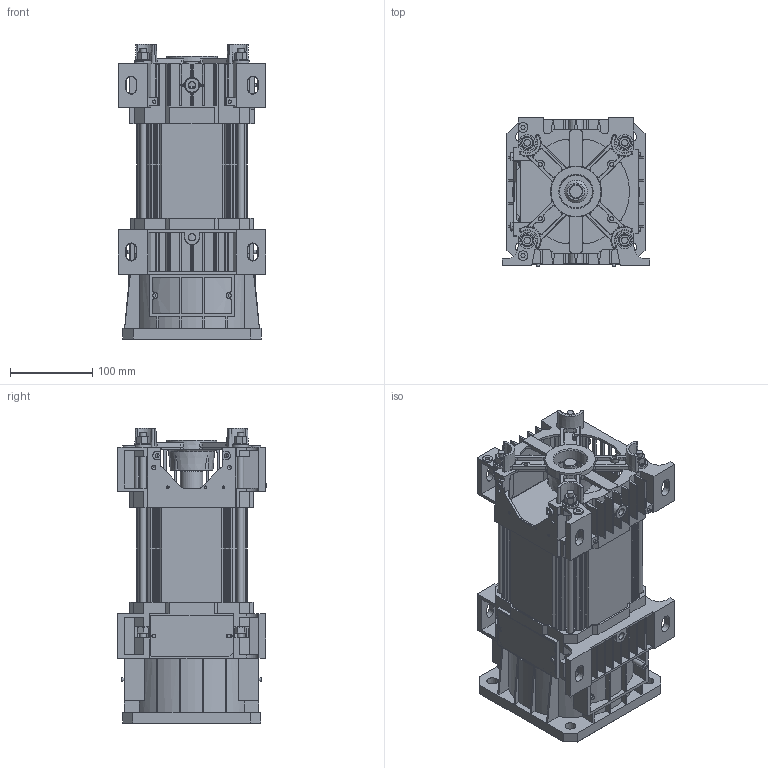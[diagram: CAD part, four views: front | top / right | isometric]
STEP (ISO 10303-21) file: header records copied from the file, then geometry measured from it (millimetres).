
FILE_DESCRIPTION(/* description */ ('Motore Tipo V34 Fl.155 F19-H125 SI Volano NO Piedi'),/* implementation_level */ '2;1');
FILE_NAME(/* name */ 'Y:\ServerTecnico\Mockup Motori x Sito Elmo\Mockup Tipo V34 Size 3 FL155 F19-H125 SI Volano.stp',/* time_stamp */ '2016-10-07T15:50:34+02:00',/* author */ ('aparmini'),/* organization */ (''),/* preprocessor_version */ 'ST-DEVELOPER v16.5',/* originating_system */ 'Autodesk Inventor 2017',/* authorisation */ '');
FILE_SCHEMA (('AUTOMOTIVE_DESIGN { 1 0 10303 214 3 1 1 }'));
Length unit declared in the file: millimetre
Products named in the file (8): Mockup Tipo V34 Size 3 FL155 F19-H125 SI Volano; Mockup CP3XD040N; Mockup CA3VD155N; Mockup Statore Size 3 - F19-H125 SI Volano; TGS10; TI08ML250; UNI 5587 - M8; DIN 125-2 - B 8,4
Assembly tree (20 placements, depth 2):
  Mockup Tipo V34 Size 3 FL155 F19-H125 SI Volano
    Mockup CP3XD040N
    Mockup CA3VD155N
    Mockup Statore Size 3 - F19-H125 SI Volano
    TGS10
    UNI 5587 - M8  x8
    TI08ML250  x4
    DIN 125-2 - B 8,4  x4
Bounding box: 180 x 181 x 360 mm (x, y, z)
Volume: 3835115 mm3; surface area: 670268.1 mm2
Topology: 20 solids, 20 shells, 1819 faces, 5040 edges, 3287 vertices
Faces by surface type: plane 1062, cone 378, cylinder 331, bspline 38, torus 10
Full cylindrical faces by diameter (mm): 3.2 x3, 4 x12, 4.917 x4, 5 x2, 6.647 x8, 8 x4, 8.4 x4, 12 x2, 16 x4, 17 x1, 19 x1, 20 x4, 21 x1, 27.5 x1, 30 x1, 31 x1, 32.5 x1, 40 x2, 40.1 x1, 42.5 x1, 46 x1, 72 x1, 145 x1, 153 x1
Entity records: 54689 total; most frequent: CARTESIAN_POINT 11163, ORIENTED_EDGE 9092, DIRECTION 9084, EDGE_CURVE 4546, AXIS2_PLACEMENT_3D 3086, VERTEX_POINT 3045, LINE 2912, VECTOR 2912
